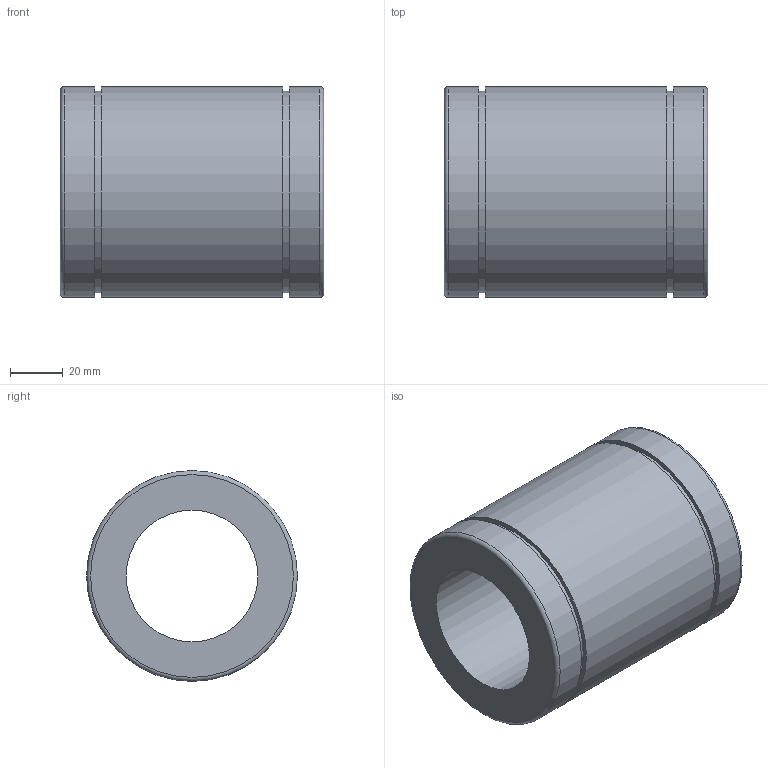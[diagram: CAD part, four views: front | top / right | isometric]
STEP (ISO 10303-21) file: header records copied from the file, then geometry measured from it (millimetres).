
FILE_DESCRIPTION(('STEP AP203'),'1');
FILE_NAME('//192.168.1.1/share/s-4 技術開発/s-4-13_CAD/03_見直し済み/001 修正済み/N/N_TOP/N-50H.step','2020-04-02T23:56:17',(' '),(' '),'Spatial InterOp 3D',' ',' ');
FILE_SCHEMA(('CONFIG_CONTROL_DESIGN'));
Length unit declared in the file: millimetre
Products named in the file (1): 1
Bounding box: 100 x 80 x 80 mm (x, y, z)
Volume: 303827.6 mm3; surface area: 48304.8 mm2
Topology: 1 solids, 1 shells, 14 faces, 25 edges, 17 vertices
Faces by surface type: cylinder 6, plane 6, torus 2
Full cylindrical faces by diameter (mm): 50 x1, 76.5 x2, 80 x3
Entity records: 332 total; most frequent: DIRECTION 58, CARTESIAN_POINT 43, AXIS2_PLACEMENT_3D 29, EDGE_LOOP 28, ORIENTED_EDGE 28, FACE_OUTER_BOUND 22, ADVANCED_FACE 14, EDGE_CURVE 14
